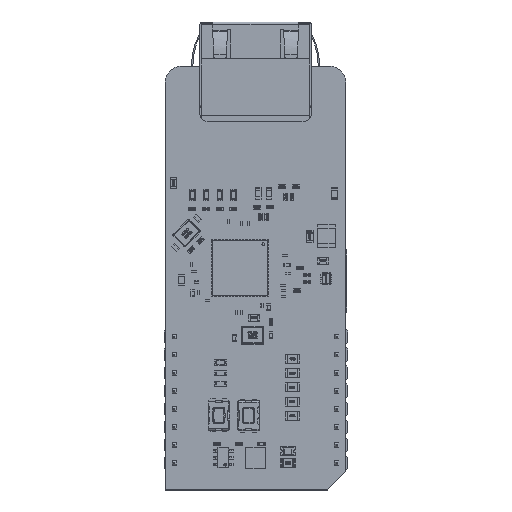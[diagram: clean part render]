
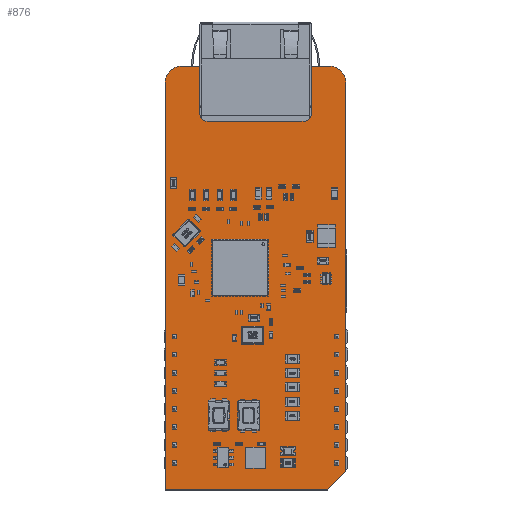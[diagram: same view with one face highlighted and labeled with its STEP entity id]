
A CAD part, top view. The second image highlights one B-rep face of the part: STEP entity #876.
In plain terms, the highlighted planar face has unit normal (0, 0, 1).
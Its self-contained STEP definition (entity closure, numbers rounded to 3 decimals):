
#451 = VERTEX_POINT('',#452);
#452 = CARTESIAN_POINT('',(-1.27,-3.81,0.));
#458 = EDGE_CURVE('',#451,#459,#461,.T.);
#459 = VERTEX_POINT('',#460);
#460 = CARTESIAN_POINT('',(-1.27,53.594,0.));
#461 = LINE('',#462,#463);
#462 = CARTESIAN_POINT('',(-1.27,-3.81,0.));
#463 = VECTOR('',#464,1.);
#464 = DIRECTION('',(0.,1.,0.));
#489 = EDGE_CURVE('',#459,#490,#492,.T.);
#490 = VERTEX_POINT('',#491);
#491 = CARTESIAN_POINT('',(1.016,55.88,0.));
#492 = CIRCLE('',#493,2.288);
#493 = AXIS2_PLACEMENT_3D('',#494,#495,#496);
#494 = CARTESIAN_POINT('',(1.018,53.592,0.));
#495 = DIRECTION('',(0.,0.,-1.));
#496 = DIRECTION('',(-1.,0.001,0.));
#522 = EDGE_CURVE('',#490,#523,#525,.T.);
#523 = VERTEX_POINT('',#524);
#524 = CARTESIAN_POINT('',(3.605,55.88,0.));
#525 = LINE('',#526,#527);
#526 = CARTESIAN_POINT('',(1.016,55.88,0.));
#527 = VECTOR('',#528,1.);
#528 = DIRECTION('',(1.,0.,0.));
#553 = EDGE_CURVE('',#523,#554,#556,.T.);
#554 = VERTEX_POINT('',#555);
#555 = CARTESIAN_POINT('',(3.605,49.101,0.));
#556 = LINE('',#557,#558);
#557 = CARTESIAN_POINT('',(3.605,59.601,0.));
#558 = VECTOR('',#559,1.);
#559 = DIRECTION('',(0.,-1.,0.));
#584 = EDGE_CURVE('',#554,#585,#587,.T.);
#585 = VERTEX_POINT('',#586);
#586 = CARTESIAN_POINT('',(4.605,48.101,0.));
#587 = CIRCLE('',#588,1.);
#588 = AXIS2_PLACEMENT_3D('',#589,#590,#591);
#589 = CARTESIAN_POINT('',(4.605,49.101,0.));
#590 = DIRECTION('',(0.,0.,1.));
#591 = DIRECTION('',(-1.,0.,0.));
#617 = EDGE_CURVE('',#585,#618,#620,.T.);
#618 = VERTEX_POINT('',#619);
#619 = CARTESIAN_POINT('',(18.255,48.101,0.));
#620 = LINE('',#621,#622);
#621 = CARTESIAN_POINT('',(4.605,48.101,0.));
#622 = VECTOR('',#623,1.);
#623 = DIRECTION('',(1.,0.,0.));
#648 = EDGE_CURVE('',#618,#649,#651,.T.);
#649 = VERTEX_POINT('',#650);
#650 = CARTESIAN_POINT('',(19.255,49.101,0.));
#651 = CIRCLE('',#652,1.);
#652 = AXIS2_PLACEMENT_3D('',#653,#654,#655);
#653 = CARTESIAN_POINT('',(18.255,49.101,0.));
#654 = DIRECTION('',(0.,0.,1.));
#655 = DIRECTION('',(0.,-1.,0.));
#681 = EDGE_CURVE('',#649,#682,#684,.T.);
#682 = VERTEX_POINT('',#683);
#683 = CARTESIAN_POINT('',(19.255,55.88,0.));
#684 = LINE('',#685,#686);
#685 = CARTESIAN_POINT('',(19.255,49.101,0.));
#686 = VECTOR('',#687,1.);
#687 = DIRECTION('',(0.,1.,0.));
#712 = EDGE_CURVE('',#682,#713,#715,.T.);
#713 = VERTEX_POINT('',#714);
#714 = CARTESIAN_POINT('',(21.844,55.88,0.));
#715 = LINE('',#716,#717);
#716 = CARTESIAN_POINT('',(1.016,55.88,0.));
#717 = VECTOR('',#718,1.);
#718 = DIRECTION('',(1.,0.,0.));
#743 = EDGE_CURVE('',#713,#744,#746,.T.);
#744 = VERTEX_POINT('',#745);
#745 = CARTESIAN_POINT('',(24.13,53.594,0.));
#746 = CIRCLE('',#747,2.288);
#747 = AXIS2_PLACEMENT_3D('',#748,#749,#750);
#748 = CARTESIAN_POINT('',(21.842,53.592,0.));
#749 = DIRECTION('',(0.,0.,-1.));
#750 = DIRECTION('',(0.001,1.,0.));
#776 = EDGE_CURVE('',#744,#777,#779,.T.);
#777 = VERTEX_POINT('',#778);
#778 = CARTESIAN_POINT('',(24.13,-1.27,0.));
#779 = LINE('',#780,#781);
#780 = CARTESIAN_POINT('',(24.13,53.594,0.));
#781 = VECTOR('',#782,1.);
#782 = DIRECTION('',(0.,-1.,0.));
#807 = EDGE_CURVE('',#777,#808,#810,.T.);
#808 = VERTEX_POINT('',#809);
#809 = CARTESIAN_POINT('',(21.59,-3.81,0.));
#810 = LINE('',#811,#812);
#811 = CARTESIAN_POINT('',(24.13,-1.27,0.));
#812 = VECTOR('',#813,1.);
#813 = DIRECTION('',(-0.707,-0.707,0.));
#838 = EDGE_CURVE('',#808,#451,#839,.T.);
#839 = LINE('',#840,#841);
#840 = CARTESIAN_POINT('',(21.59,-3.81,0.));
#841 = VECTOR('',#842,1.);
#842 = DIRECTION('',(-1.,0.,0.));
#876 = ADVANCED_FACE('',(#877),#892,.T.);
#877 = FACE_BOUND('',#878,.T.);
#878 = EDGE_LOOP('',(#879,#880,#881,#882,#883,#884,#885,#886,#887,#888,
    #889,#890,#891));
#879 = ORIENTED_EDGE('',*,*,#458,.F.);
#880 = ORIENTED_EDGE('',*,*,#838,.F.);
#881 = ORIENTED_EDGE('',*,*,#807,.F.);
#882 = ORIENTED_EDGE('',*,*,#776,.F.);
#883 = ORIENTED_EDGE('',*,*,#743,.F.);
#884 = ORIENTED_EDGE('',*,*,#712,.F.);
#885 = ORIENTED_EDGE('',*,*,#681,.F.);
#886 = ORIENTED_EDGE('',*,*,#648,.F.);
#887 = ORIENTED_EDGE('',*,*,#617,.F.);
#888 = ORIENTED_EDGE('',*,*,#584,.F.);
#889 = ORIENTED_EDGE('',*,*,#553,.F.);
#890 = ORIENTED_EDGE('',*,*,#522,.F.);
#891 = ORIENTED_EDGE('',*,*,#489,.F.);
#892 = PLANE('',#893);
#893 = AXIS2_PLACEMENT_3D('',#894,#895,#896);
#894 = CARTESIAN_POINT('',(-1.27,-3.81,0.));
#895 = DIRECTION('',(0.,0.,1.));
#896 = DIRECTION('',(1.,0.,0.));
